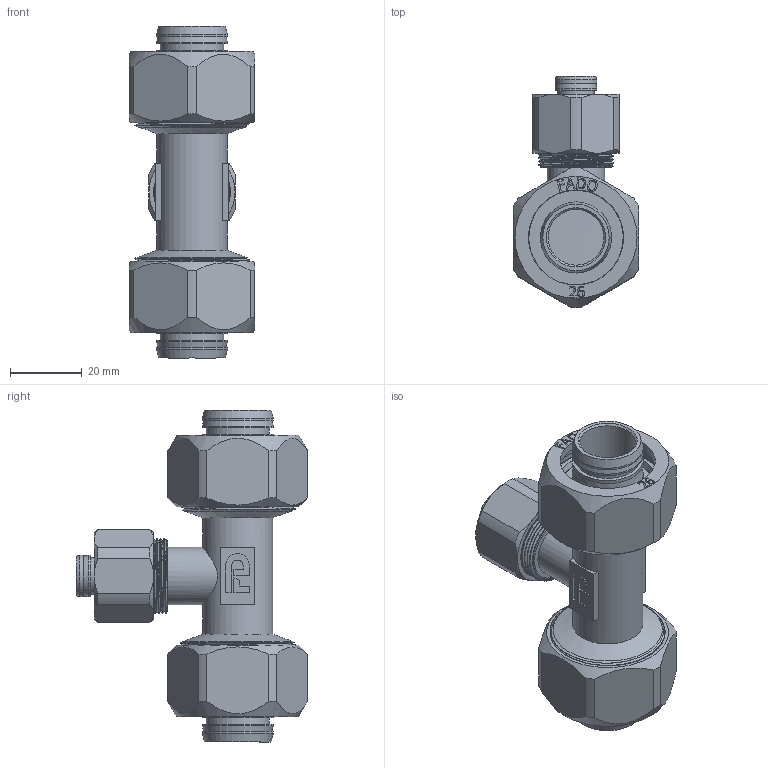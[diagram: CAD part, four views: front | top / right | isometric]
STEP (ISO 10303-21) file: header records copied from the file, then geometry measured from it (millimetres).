
FILE_DESCRIPTION(/* description */ (''),/* implementation_level */ '2;1');
FILE_NAME(/* name */ 'C:\Users\Doom\Desktop\Фадотех\Обжим\RFT06 26x16x26 30.03.2020\RFT06 26x16x26 30.03.2020.stp',/* time_stamp */ '2022-06-01T11:39:32+03:00',/* author */ ('Doom'),/* organization */ (''),/* preprocessor_version */ 'ST-DEVELOPER v18',/* originating_system */ 'Autodesk Inventor 2020',/* authorisation */ '');
FILE_SCHEMA (('AUTOMOTIVE_DESIGN { 1 0 10303 214 3 1 1 }'));
Length unit declared in the file: millimetre
Products named in the file (8): RFT06 26x16x26 30.03.2020; RFT06 26x16x26 30.03.2020_1; FADO MC Nut-16 15.02.2020; FADO MC Nut-26 15.02.2020; FADO MC Socket-16 15.02.2020; FADO MC Socket-26 15.02.2020; Olive 16 15.02.2020; Olive 26 15.02.2020
Assembly tree (10 placements, depth 2):
  RFT06 26x16x26 30.03.2020
    RFT06 26x16x26 30.03.2020_1
    FADO MC Nut-16 15.02.2020
    FADO MC Nut-26 15.02.2020  x2
    FADO MC Socket-16 15.02.2020
    FADO MC Socket-26 15.02.2020  x2
    Olive 16 15.02.2020
    Olive 26 15.02.2020  x2
Bounding box: 35 x 64.5 x 92.5 mm (x, y, z)
Volume: 44216.2 mm3; surface area: 59157.7 mm2
Topology: 16 solids, 16 shells, 1534 faces, 4231 edges, 2851 vertices
Faces by surface type: bspline 786, plane 443, cylinder 239, cone 60, torus 6
Full cylindrical faces by diameter (mm): 8.5 x1, 10.2 x2, 11.7 x4, 12 x1, 12.6 x1, 14.7 x2, 15.5 x3, 16 x2, 16.5 x1, 17.6 x4, 19 x1, 19.5 x1, 19.517 x2, 19.6 x1, 19.8 x10, 19.867 x12, 21 x12, 21.35 x2, 24 x4, 24.5 x2, 26.5 x2, 29.776 x2, 30 x2, 30.517 x24, 30.6 x2, 32 x22
Entity records: 68648 total; most frequent: CARTESIAN_POINT 44620, ORIENTED_EDGE 5862, DIRECTION 3318, EDGE_CURVE 2931, VERTEX_POINT 1975, B_SPLINE_CURVE_WITH_KNOTS 1208, EDGE_LOOP 1178, LINE 1160
